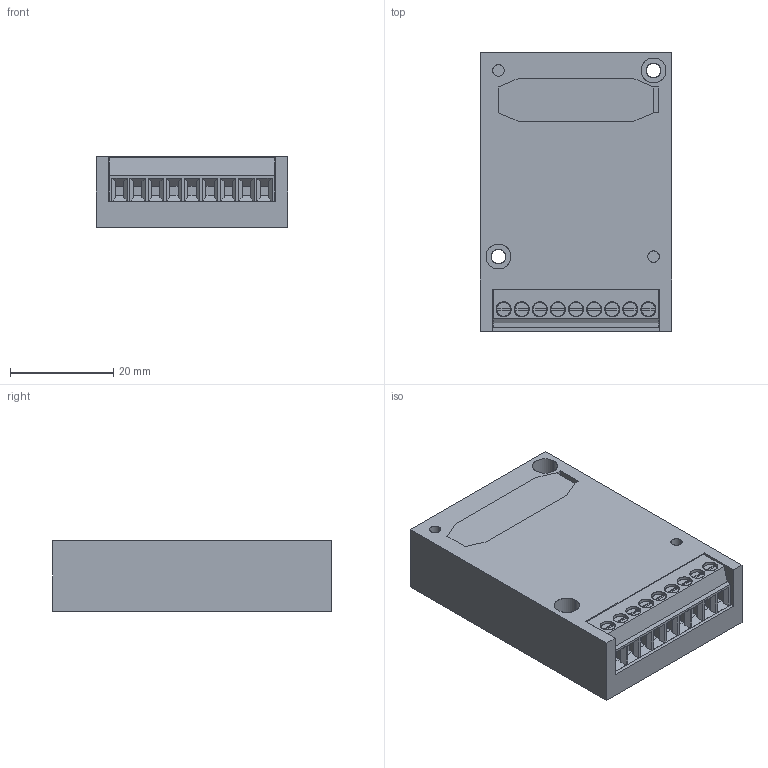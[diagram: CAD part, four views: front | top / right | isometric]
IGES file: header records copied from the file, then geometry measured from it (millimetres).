
Global section: preprocessor: SolidWorks 2008; organization: PanasonicElectricWorks; date: 090828.104534; units: millimetre
Bounding box: 37 x 53.8 x 13.6 mm (x, y, z)
Surface area: 9776.2 mm2 (no closed solid volume)
Topology: 0 solids, 0 shells, 277 faces, 2746 edges, 2746 vertices
Faces by surface type: bspline 225, revolution 52
